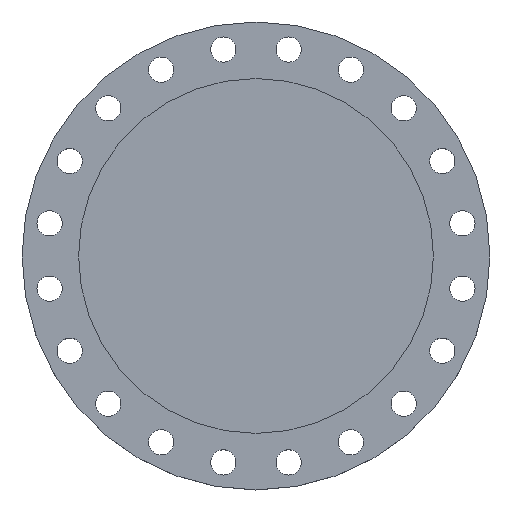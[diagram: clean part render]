
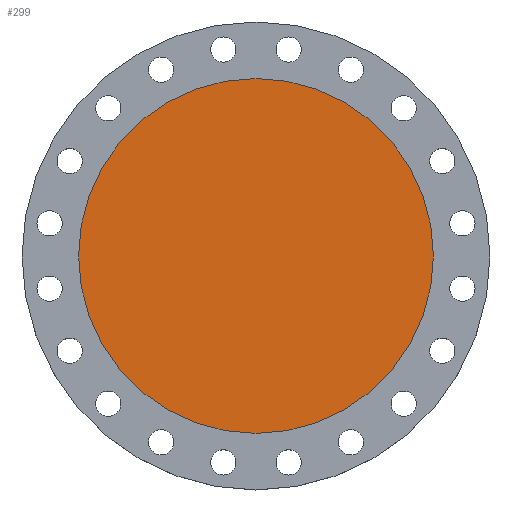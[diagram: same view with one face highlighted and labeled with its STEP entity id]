
A CAD part, top view. The second image highlights one B-rep face of the part: STEP entity #299.
In plain terms, the highlighted planar face has unit normal (0, 0, 1).
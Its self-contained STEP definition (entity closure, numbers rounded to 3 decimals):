
#177 = CARTESIAN_POINT ( 'NONE',  ( -337.5, 0., 0. ) ) ;
#298 = DIRECTION ( 'NONE',  ( -1., 0., 0. ) ) ;
#299 = ADVANCED_FACE ( 'NONE', ( #1049 ), #1048, .T. ) ;
#300 = DIRECTION ( 'NONE',  ( 0., 0., -1. ) ) ;
#301 = CARTESIAN_POINT ( 'NONE',  ( 0., 0., 0. ) ) ;
#578 = CARTESIAN_POINT ( 'NONE',  ( 337.5, 0., 0. ) ) ;
#885 = CARTESIAN_POINT ( 'NONE',  ( 0., 0., 0. ) ) ;
#1045 = DIRECTION ( 'NONE',  ( 1., 0., 0. ) ) ;
#1046 = DIRECTION ( 'NONE',  ( 0., 0., 1. ) ) ;
#1047 = CARTESIAN_POINT ( 'NONE',  ( 0., 0., 0. ) ) ;
#1048 = PLANE ( 'NONE',  #1292 ) ;
#1049 = FACE_OUTER_BOUND ( 'NONE', #1232, .T. ) ;
#1209 = VERTEX_POINT ( 'NONE', #578 ) ;
#1227 = DIRECTION ( 'NONE',  ( -1., 0., 0. ) ) ;
#1231 = DIRECTION ( 'NONE',  ( 0., 0., -1. ) ) ;
#1232 = EDGE_LOOP ( 'NONE', ( #1445, #1443 ) ) ;
#1292 = AXIS2_PLACEMENT_3D ( 'NONE', #1047, #1046, #1045 ) ;
#1443 = ORIENTED_EDGE ( 'NONE', *, *, #1616, .F. ) ;
#1445 = ORIENTED_EDGE ( 'NONE', *, *, #1624, .F. ) ;
#1549 = CIRCLE ( 'NONE', #1554, 337.5 ) ;
#1554 = AXIS2_PLACEMENT_3D ( 'NONE', #301, #300, #298 ) ;
#1556 = CIRCLE ( 'NONE', #1560, 337.5 ) ;
#1560 = AXIS2_PLACEMENT_3D ( 'NONE', #885, #1231, #1227 ) ;
#1616 = EDGE_CURVE ( 'NONE', #1209, #1739, #1549, .T. ) ;
#1624 = EDGE_CURVE ( 'NONE', #1739, #1209, #1556, .T. ) ;
#1739 = VERTEX_POINT ( 'NONE', #177 ) ;
